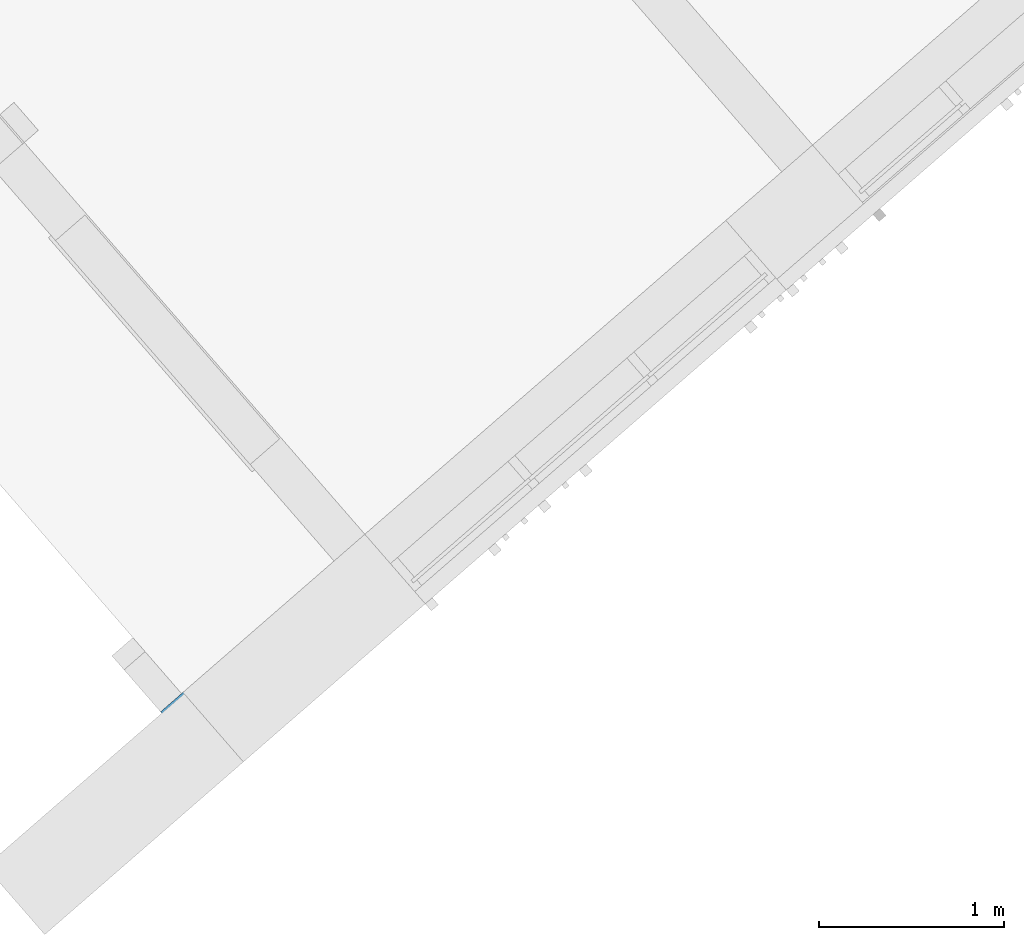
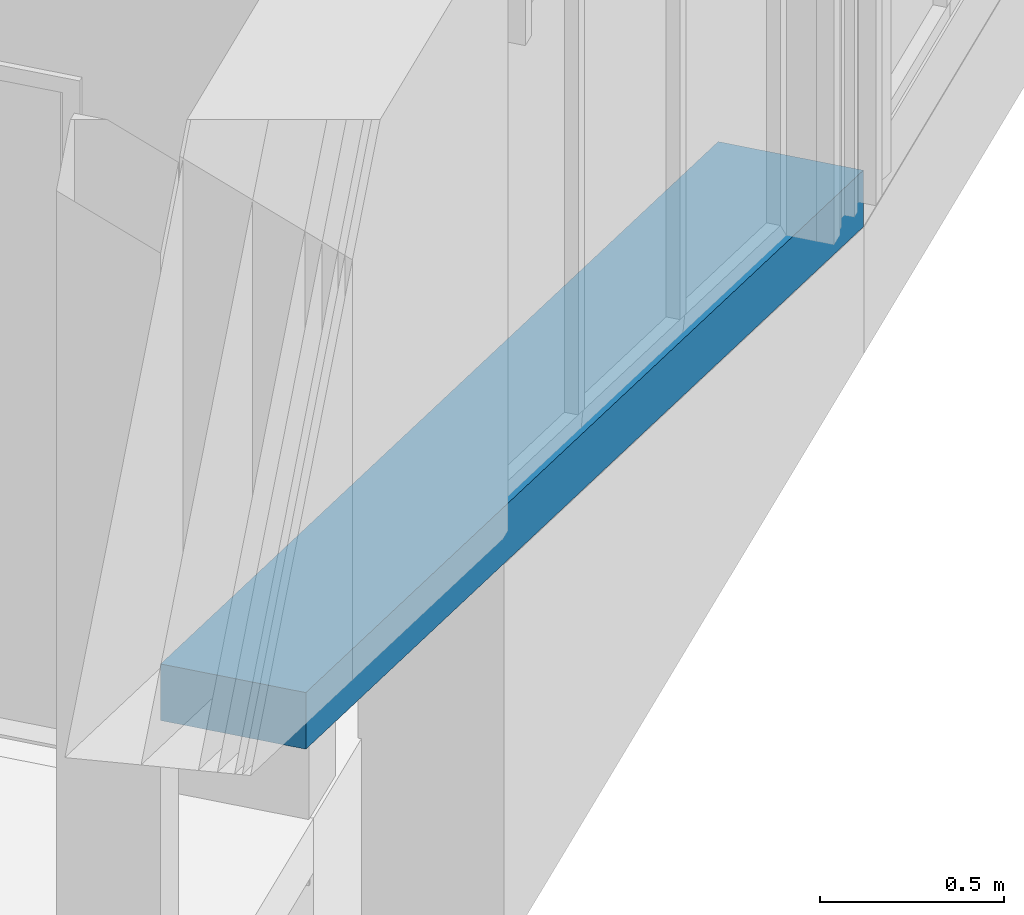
# One storey, part 33 of 124: 1 wall.
"""IFC2X3 building model written with IfcOpenShell, lengths in millimetres."""

from ifc_helpers import new_model, entity, si_unit, converted_unit, derived_unit, money_unit, direction, frame, origin_with_axes, place, context, subcontext, project, spatial, faceted_brep, material, material_list, type_object, element, save


model = new_model("IFC2X3")

# Units and contexts
model_context = context("Model", 3, precision=1e-05, world=origin_with_axes(), true_north=direction((0.0, 1.0)))
body_context = subcontext(model_context, "Body", "Model", "MODEL_VIEW")
ifc_project = project(units=[si_unit("LENGTHUNIT", "METRE", prefix="MILLI"), si_unit("AREAUNIT", "SQUARE_METRE"), si_unit("VOLUMEUNIT", "CUBIC_METRE"), converted_unit("PLANEANGLEUNIT", "DEGREE", entity("IfcPlaneAngleMeasure", 0.0174532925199), si_unit("PLANEANGLEUNIT", "RADIAN"), dimensions=[0, 0, 0, 0, 0, 0, 0]), si_unit("SOLIDANGLEUNIT", "STERADIAN"), money_unit("EUR"), converted_unit("TIMEUNIT", "Year", entity("IfcTimeMeasure", 31556926.0), si_unit("TIMEUNIT", "SECOND"), dimensions=[0, 0, 1, 0, 0, 0, 0]), si_unit("MASSUNIT", "GRAM", prefix="KILO"), si_unit("THERMODYNAMICTEMPERATUREUNIT", "DEGREE_CELSIUS"), si_unit("LUMINOUSINTENSITYUNIT", "LUMEN"), si_unit("ENERGYUNIT", "JOULE", prefix="MEGA"), derived_unit("THERMALCONDUCTANCEUNIT", [(si_unit("POWERUNIT", "WATT"), 1), (si_unit("LENGTHUNIT", "METRE"), -1), (si_unit("THERMODYNAMICTEMPERATUREUNIT", "KELVIN"), -1)]), derived_unit("SPECIFICHEATCAPACITYUNIT", [(si_unit("ENERGYUNIT", "JOULE"), 1), (si_unit("MASSUNIT", "GRAM", prefix="KILO"), -1), (si_unit("THERMODYNAMICTEMPERATUREUNIT", "KELVIN"), -1)]), derived_unit("MASSDENSITYUNIT", [(si_unit("MASSUNIT", "GRAM", prefix="KILO"), 1), (si_unit("VOLUMEUNIT", "CUBIC_METRE"), -1)])], contexts=[model_context])

# Site, building, storey
site_placement = place(None, origin_with_axes())
site = spatial("IfcSite", under=ifc_project, at=site_placement, Name="Site", CompositionType="ELEMENT")
building_placement = place(site_placement, origin_with_axes())
building = spatial("IfcBuilding", under=site, at=building_placement, Name="Building", CompositionType="ELEMENT")
storey_placement = place(building_placement, frame((0.0, 0.0, -1615.0), z_axis=(0.0, 0.0, 1.0), x_axis=(1.0, 0.0, 0.0)))
storey = spatial("IfcBuildingStorey", under=building, at=storey_placement, Name="0  korrus", CompositionType="ELEMENT", Elevation=-1615.0)

# Wall
ifc_material_1 = material(Name="Plaat - Sein")
ifc_material_2 = material(Name="Soojustus - Plastik Kõva")
ifc_material_3 = material(Name="Raudbetoon - Konstruktsioon")
ifc_material_4 = material(Name="Krohv - Lubjakivi")
ifc_material_list = material_list([ifc_material_1, ifc_material_2, ifc_material_2, ifc_material_3, ifc_material_4])
wall_type = type_object("IfcWallType", Name="VS-05", PredefinedType="NOTDEFINED")
wall_placement = place(storey_placement, frame((152951.748256, 78281.1997208, -200.0), z_axis=(0.0, 0.0, 1.0), x_axis=(-0.754709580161, -0.656059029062, 0.0)))
element("IfcWall", 1, at=wall_placement, inside=storey, type_object=wall_type, material=ifc_material_list, Name="VS-05", context=body_context, shape_type="Brep", body=[
    faceted_brep([(4660.03559568, 418.0, 1349.99341805), (7.53175299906e-09, 418.0, -2.59934296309e-08), (3.65503183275e-08, 418.0, 187.999999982), (4660.03559568, 418.0, 1537.99341805), (7.53175299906e-09, 410.0, -2.60420573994e-08), (4660.03559568, 410.0, 1349.99341805), (3.66355834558e-08, 410.0, 187.999999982), (4660.03559568, 410.0, 1537.99341805)], [[[0, 1, 2, 3]], [[4, 1, 0, 5]], [[1, 4, 6, 2]], [[7, 3, 2, 6]], [[5, 0, 3, 7]], [[4, 5, 7, 6]]]),
    faceted_brep([(4660.03559568, 410.0, 1349.99341805), (7.53175299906e-09, 410.0, -2.60420573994e-08), (3.66355834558e-08, 410.0, 187.999999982), (4660.03559568, 410.0, 1537.99341805), (7.64543983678e-09, 360.0, -2.63440380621e-08), (4660.03559568, 360.0, 1349.99341805), (3.70619090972e-08, 360.0, 187.999999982), (4660.03559568, 360.0, 1537.99341805)], [[[0, 1, 2, 3]], [[4, 1, 0, 5]], [[1, 4, 6, 2]], [[7, 3, 2, 6]], [[5, 0, 3, 7]], [[4, 5, 7, 6]]]),
    faceted_brep([(4660.03559568, 360.0, 1349.99341805), (7.64543983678e-09, 360.0, -2.63440380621e-08), (3.70619090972e-08, 360.0, 187.999999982), (4660.03559568, 360.0, 1537.99341805), (7.92965693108e-09, 210.0, -2.72555311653e-08), (4660.03559568, 210.0, 1349.99341805), (3.83408860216e-08, 210.0, 187.999999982), (4660.03559568, 210.0, 1537.99341805)], [[[0, 1, 2, 3]], [[4, 1, 0, 5]], [[1, 4, 6, 2]], [[7, 3, 2, 6]], [[5, 0, 3, 7]], [[4, 5, 7, 6]]]),
    faceted_brep([(4660.03559568, 210.0, 1349.99341805), (7.92965693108e-09, 210.0, -2.72555311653e-08), (3.83408860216e-08, 210.0, 187.999999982), (4660.03559568, 210.0, 1537.99341805), (8.24229573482e-09, 10.0, -2.84723356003e-08), (4660.03559568, 10.0, 1349.99341805), (4.00461885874e-08, 10.0, 187.999999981), (4660.03559568, 10.0, 1537.99341805)], [[[0, 1, 2, 3]], [[4, 1, 0, 5]], [[1, 4, 6, 2]], [[7, 3, 2, 6]], [[5, 0, 3, 7]], [[4, 5, 7, 6]]]),
    faceted_brep([(4660.03559568, 10.0, 1349.99341805), (8.24229573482e-09, 10.0, -2.84723356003e-08), (4.00461885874e-08, 10.0, 187.999999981), (4660.03559568, 10.0, 1537.99341805), (8.27071744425e-09, 0.0, -2.85313994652e-08), (4660.03559568, 0.0, 1349.99341805), (4.01598754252e-08, 0.0, 187.999999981), (4660.03559568, 0.0, 1537.99341805)], [[[0, 1, 2, 3]], [[4, 1, 0, 5]], [[1, 4, 6, 2]], [[7, 3, 2, 6]], [[5, 0, 3, 7]], [[4, 5, 7, 6]]]),
])

save(model, "model.ifc")
